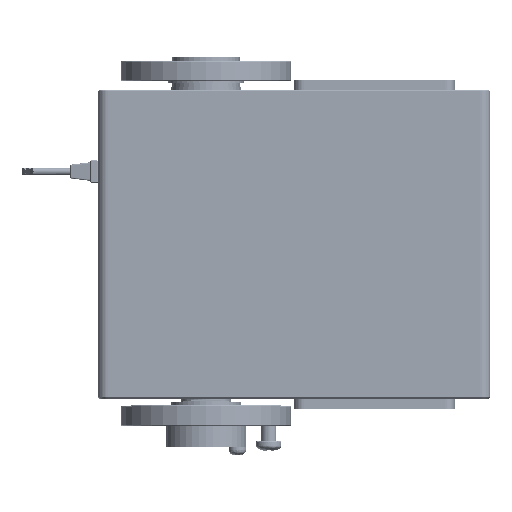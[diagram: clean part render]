
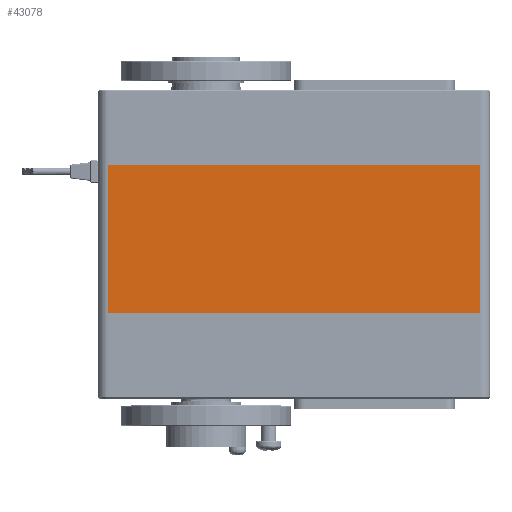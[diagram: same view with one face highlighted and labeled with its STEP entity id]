
A CAD part, top view. The second image highlights one B-rep face of the part: STEP entity #43078.
In plain terms, the highlighted planar face has unit normal (0, 0, 1) as drawn and (0, 0, -1) by its records, which use the part's own axes.
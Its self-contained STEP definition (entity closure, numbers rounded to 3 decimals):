
#1140=PLANE('',#45965);
#2157=FACE_OUTER_BOUND('',#4674,.T.);
#4674=EDGE_LOOP('',(#30770,#30771,#30772,#30773));
#11636=LINE('',#138999,#14155);
#11645=LINE('',#139032,#14164);
#11646=LINE('',#139035,#14165);
#11647=LINE('',#139036,#14166);
#14155=VECTOR('',#50950,74.);
#14164=VECTOR('',#50977,29.5);
#14165=VECTOR('',#50980,74.);
#14166=VECTOR('',#50981,29.5);
#17471=VERTEX_POINT('',#138995);
#17473=VERTEX_POINT('',#138998);
#17488=VERTEX_POINT('',#139030);
#17489=VERTEX_POINT('',#139034);
#22634=EDGE_CURVE('',#17471,#17473,#11636,.T.);
#22651=EDGE_CURVE('',#17471,#17488,#11645,.T.);
#22652=EDGE_CURVE('',#17488,#17489,#11646,.T.);
#22653=EDGE_CURVE('',#17489,#17473,#11647,.T.);
#30770=ORIENTED_EDGE('',*,*,#22634,.F.);
#30771=ORIENTED_EDGE('',*,*,#22651,.T.);
#30772=ORIENTED_EDGE('',*,*,#22652,.T.);
#30773=ORIENTED_EDGE('',*,*,#22653,.T.);
#43078=ADVANCED_FACE('',(#2157),#1140,.T.);
#45965=AXIS2_PLACEMENT_3D('',#139033,#50978,#50979);
#50950=DIRECTION('',(1.,0.,0.));
#50977=DIRECTION('',(0.,1.,0.));
#50978=DIRECTION('center_axis',(0.,0.,-1.));
#50979=DIRECTION('ref_axis',(-1.,0.,0.));
#50980=DIRECTION('',(1.,0.,0.));
#50981=DIRECTION('',(0.,-1.,0.));
#138995=CARTESIAN_POINT('',(-37.,0.,-21.5));
#138998=CARTESIAN_POINT('',(37.,0.,-21.5));
#138999=CARTESIAN_POINT('',(-37.,0.,-21.5));
#139030=CARTESIAN_POINT('',(-37.,29.5,-21.5));
#139032=CARTESIAN_POINT('',(-37.,0.,-21.5));
#139033=CARTESIAN_POINT('Origin',(37.,0.,-21.5));
#139034=CARTESIAN_POINT('',(37.,29.5,-21.5));
#139035=CARTESIAN_POINT('',(-37.,29.5,-21.5));
#139036=CARTESIAN_POINT('',(37.,29.5,-21.5));
